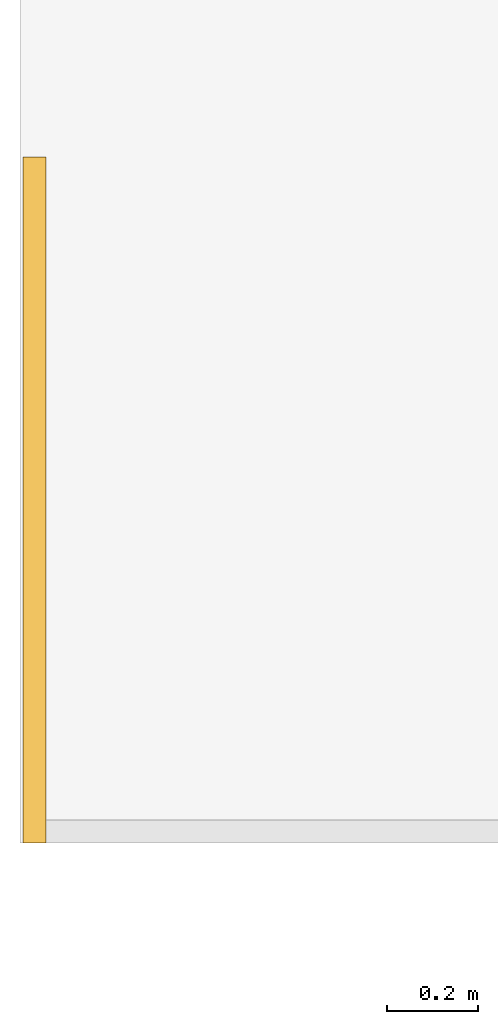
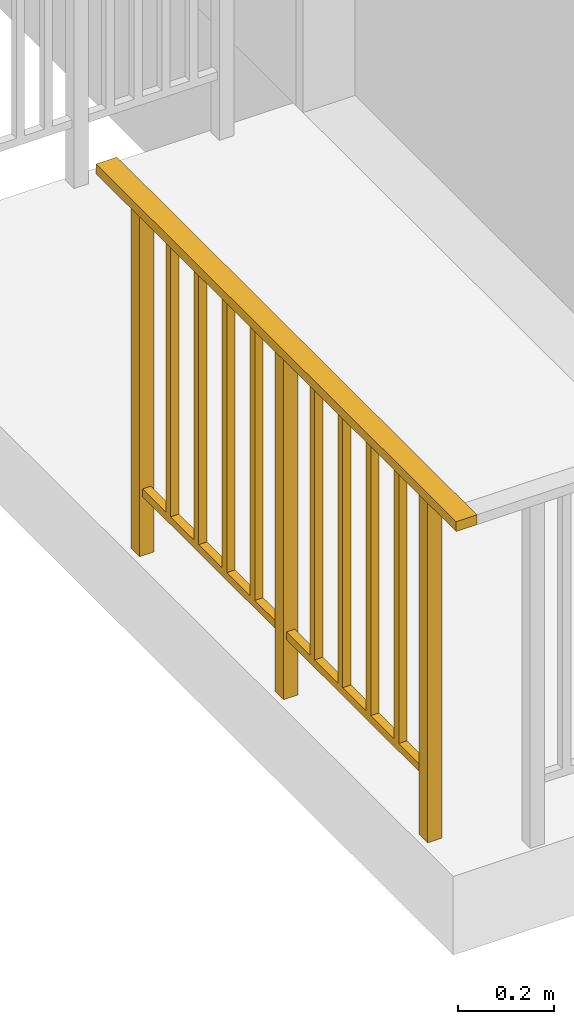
# One storey, part 7 of 14: 1 railing.
"""IFC2X3 building model written with IfcOpenShell, lengths in millimetres."""

from ifc_helpers import new_model, entity, si_unit, converted_unit, direction, frame, origin_with_axes, place, context, project, spatial, faceted_brep, source, transform, mapped, material, element, save


model = new_model("IFC2X3")

# Units and contexts
model_context = context("Model", 3, precision=1e-05, world=origin_with_axes(), true_north=direction((0.0, 1.0)))
ifc_project = project(units=[si_unit("LENGTHUNIT", "METRE", prefix="MILLI"), si_unit("AREAUNIT", "SQUARE_METRE"), si_unit("VOLUMEUNIT", "CUBIC_METRE"), converted_unit("PLANEANGLEUNIT", "DEGREE", entity("IfcPlaneAngleMeasure", 0.017453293), si_unit("PLANEANGLEUNIT", "RADIAN"), dimensions=[0, 0, 0, 0, 0, 0, 0]), si_unit("SOLIDANGLEUNIT", "STERADIAN"), si_unit("MASSUNIT", "GRAM"), si_unit("TIMEUNIT", "SECOND"), si_unit("THERMODYNAMICTEMPERATUREUNIT", "DEGREE_CELSIUS"), si_unit("LUMINOUSINTENSITYUNIT", "LUMEN")], contexts=[model_context])

# Site, building, storey
site_placement = place(None, origin_with_axes())
site = spatial("IfcSite", under=ifc_project, at=site_placement, Name="\x83T\x83C\x83g", CompositionType="ELEMENT")
building_placement = place(site_placement, origin_with_axes())
building = spatial("IfcBuilding", under=site, at=building_placement, Name="Daitec-Sample 201208", CompositionType="ELEMENT")
storey_placement = place(building_placement, frame((0.0, 0.0, 8000.0), z_axis=(0.0, 0.0, 1.0), x_axis=(1.0, 0.0, 0.0)))
storey = spatial("IfcBuildingStorey", under=building, at=storey_placement, Name="3F", CompositionType="ELEMENT", Elevation=8000.0)

# Railing
ifc_material = material(Name="\x94w\x8ci")
shared_shape = source(origin_with_axes(), model_context, "Body", "Brep", [
    faceted_brep([(0.0, 25.0, 875.0), (0.0, -25.0, 875.0), (0.0, -25.0, 900.0), (0.0, 25.0, 900.0), (1500.0, 25.0, 875.0), (1500.0, -25.0, 875.0), (1500.0, -25.0, 900.0), (1500.0, 25.0, 900.0)], [[[0, 1, 2, 3]], [[0, 4, 5, 1]], [[1, 5, 6, 2]], [[3, 2, 6, 7]], [[4, 0, 3, 7]], [[5, 4, 7, 6]]]),
    faceted_brep([(132.5, -17.5, 0.0), (167.5, -17.5, 0.0), (167.5, -17.5, 875.0), (132.5, -17.5, 875.0), (132.5, 17.5, 0.0), (167.5, 17.5, 0.0), (167.5, 17.5, 875.0), (132.5, 17.5, 875.0)], [[[0, 1, 2, 3]], [[0, 4, 5, 1]], [[1, 5, 6, 2]], [[3, 2, 6, 7]], [[4, 0, 3, 7]], [[5, 4, 7, 6]]]),
    faceted_brep([(732.5, -17.5, 0.0), (767.5, -17.5, 0.0), (767.5, -17.5, 875.0), (732.5, -17.5, 875.0), (732.5, 17.5, 0.0), (767.5, 17.5, 0.0), (767.5, 17.5, 875.0), (732.5, 17.5, 875.0)], [[[0, 1, 2, 3]], [[0, 4, 5, 1]], [[1, 5, 6, 2]], [[3, 2, 6, 7]], [[4, 0, 3, 7]], [[5, 4, 7, 6]]]),
    faceted_brep([(1332.5, -17.5, 0.0), (1367.5, -17.5, 0.0), (1367.5, -17.5, 875.0), (1332.5, -17.5, 875.0), (1332.5, 17.5, 0.0), (1367.5, 17.5, 0.0), (1367.5, 17.5, 875.0), (1332.5, 17.5, 875.0)], [[[0, 1, 2, 3]], [[0, 4, 5, 1]], [[1, 5, 6, 2]], [[3, 2, 6, 7]], [[4, 0, 3, 7]], [[5, 4, 7, 6]]]),
    faceted_brep([(732.5, -10.0, 170.0), (732.5, 10.0, 170.0), (167.5, 10.0, 170.0), (167.5, -10.0, 170.0), (732.5, 10.0, 150.0), (732.5, -10.0, 150.0), (167.5, 10.0, 150.0), (167.5, -10.0, 150.0)], [[[0, 1, 2, 3]], [[4, 1, 0, 5]], [[1, 4, 6, 2]], [[7, 3, 2, 6]], [[5, 0, 3, 7]], [[4, 5, 7, 6]]]),
    faceted_brep([(1332.5, -10.0, 170.0), (1332.5, 10.0, 170.0), (767.5, 10.0, 170.0), (767.5, -10.0, 170.0), (1332.5, 10.0, 150.0), (1332.5, -10.0, 150.0), (767.5, 10.0, 150.0), (767.5, -10.0, 150.0)], [[[0, 1, 2, 3]], [[4, 1, 0, 5]], [[1, 4, 6, 2]], [[7, 3, 2, 6]], [[5, 0, 3, 7]], [[4, 5, 7, 6]]]),
    faceted_brep([(264.5, -10.0, 170.0), (284.5, -10.0, 170.0), (284.5, -10.0, 875.0), (264.5, -10.0, 875.0), (264.5, 10.0, 170.0), (284.5, 10.0, 170.0), (284.5, 10.0, 875.0), (264.5, 10.0, 875.0)], [[[0, 1, 2, 3]], [[0, 4, 5, 1]], [[1, 5, 6, 2]], [[3, 2, 6, 7]], [[4, 0, 3, 7]], [[5, 4, 7, 6]]]),
    faceted_brep([(381.5, -10.0, 170.0), (401.5, -10.0, 170.0), (401.5, -10.0, 875.0), (381.5, -10.0, 875.0), (381.5, 10.0, 170.0), (401.5, 10.0, 170.0), (401.5, 10.0, 875.0), (381.5, 10.0, 875.0)], [[[0, 1, 2, 3]], [[0, 4, 5, 1]], [[1, 5, 6, 2]], [[3, 2, 6, 7]], [[4, 0, 3, 7]], [[5, 4, 7, 6]]]),
    faceted_brep([(498.5, -10.0, 170.0), (518.5, -10.0, 170.0), (518.5, -10.0, 875.0), (498.5, -10.0, 875.0), (498.5, 10.0, 170.0), (518.5, 10.0, 170.0), (518.5, 10.0, 875.0), (498.5, 10.0, 875.0)], [[[0, 1, 2, 3]], [[0, 4, 5, 1]], [[1, 5, 6, 2]], [[3, 2, 6, 7]], [[4, 0, 3, 7]], [[5, 4, 7, 6]]]),
    faceted_brep([(615.5, -10.0, 170.0), (635.5, -10.0, 170.0), (635.5, -10.0, 875.0), (615.5, -10.0, 875.0), (615.5, 10.0, 170.0), (635.5, 10.0, 170.0), (635.5, 10.0, 875.0), (615.5, 10.0, 875.0)], [[[0, 1, 2, 3]], [[0, 4, 5, 1]], [[1, 5, 6, 2]], [[3, 2, 6, 7]], [[4, 0, 3, 7]], [[5, 4, 7, 6]]]),
    faceted_brep([(864.5, -10.0, 170.0), (884.5, -10.0, 170.0), (884.5, -10.0, 875.0), (864.5, -10.0, 875.0), (864.5, 10.0, 170.0), (884.5, 10.0, 170.0), (884.5, 10.0, 875.0), (864.5, 10.0, 875.0)], [[[0, 1, 2, 3]], [[0, 4, 5, 1]], [[1, 5, 6, 2]], [[3, 2, 6, 7]], [[4, 0, 3, 7]], [[5, 4, 7, 6]]]),
    faceted_brep([(981.5, -10.0, 170.0), (1001.5, -10.0, 170.0), (1001.5, -10.0, 875.0), (981.5, -10.0, 875.0), (981.5, 10.0, 170.0), (1001.5, 10.0, 170.0), (1001.5, 10.0, 875.0), (981.5, 10.0, 875.0)], [[[0, 1, 2, 3]], [[0, 4, 5, 1]], [[1, 5, 6, 2]], [[3, 2, 6, 7]], [[4, 0, 3, 7]], [[5, 4, 7, 6]]]),
    faceted_brep([(1098.5, -10.0, 170.0), (1118.5, -10.0, 170.0), (1118.5, -10.0, 875.0), (1098.5, -10.0, 875.0), (1098.5, 10.0, 170.0), (1118.5, 10.0, 170.0), (1118.5, 10.0, 875.0), (1098.5, 10.0, 875.0)], [[[0, 1, 2, 3]], [[0, 4, 5, 1]], [[1, 5, 6, 2]], [[3, 2, 6, 7]], [[4, 0, 3, 7]], [[5, 4, 7, 6]]]),
    faceted_brep([(1215.5, -10.0, 170.0), (1235.5, -10.0, 170.0), (1235.5, -10.0, 875.0), (1215.5, -10.0, 875.0), (1215.5, 10.0, 170.0), (1235.5, 10.0, 170.0), (1235.5, 10.0, 875.0), (1215.5, 10.0, 875.0)], [[[0, 1, 2, 3]], [[0, 4, 5, 1]], [[1, 5, 6, 2]], [[3, 2, 6, 7]], [[4, 0, 3, 7]], [[5, 4, 7, 6]]]),
])
railing_placement = place(storey_placement, frame((5015.7362, 17684.787, 0.0), z_axis=(0.0, 0.0, 1.0), x_axis=(0.0, 1.0, 0.0)))
element("IfcRailing", 1, at=railing_placement, inside=storey, material=ifc_material, Name="O0", PredefinedType="NOTDEFINED", context=model_context, shape_type="MappedRepresentation", body=[
    mapped(shared_shape, transform((0.0, 0.0, 0.0))),
])

save(model, "model.ifc")
